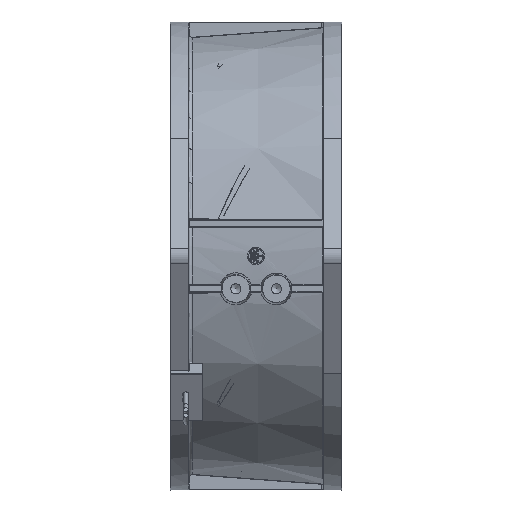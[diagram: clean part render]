
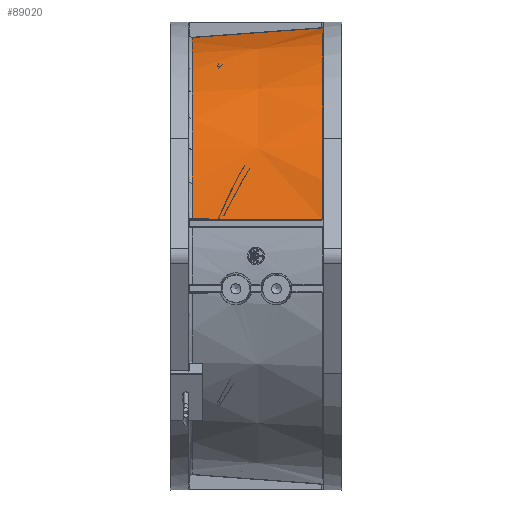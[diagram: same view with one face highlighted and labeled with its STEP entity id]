
A CAD part, left-side view. The second image highlights one B-rep face of the part: STEP entity #89020.
In plain terms, the highlighted conical face has half-angle 4.2 degrees and reference radius 70 mm.
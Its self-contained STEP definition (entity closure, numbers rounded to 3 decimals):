
#167=CONICAL_SURFACE('',#95694,70.,0.073);
#3942=B_SPLINE_CURVE_WITH_KNOTS('',3,(#128143,#128144,#128145,#128146),
 .UNSPECIFIED.,.F.,.F.,(4,4),(-4.155,0.),
 .UNSPECIFIED.);
#3944=B_SPLINE_CURVE_WITH_KNOTS('',3,(#128179,#128180,#128181,#128182,#128183),
 .UNSPECIFIED.,.F.,.F.,(4,1,4),(-0.063,-0.032,
0.),.UNSPECIFIED.);
#3946=B_SPLINE_CURVE_WITH_KNOTS('',3,(#128223,#128224,#128225,#128226,#128227),
 .UNSPECIFIED.,.F.,.F.,(4,1,4),(-0.063,-0.031,
0.),.UNSPECIFIED.);
#3948=B_SPLINE_CURVE_WITH_KNOTS('',3,(#128256,#128257,#128258,#128259),
 .UNSPECIFIED.,.F.,.F.,(4,4),(-4.155,0.),
 .UNSPECIFIED.);
#11965=FACE_OUTER_BOUND('',#17556,.T.);
#17556=EDGE_LOOP('',(#64701,#64702,#64703,#64704,#64705,#64706));
#36188=CIRCLE('',#95505,73.151);
#36313=CIRCLE('',#95695,70.079);
#38873=VERTEX_POINT('',#128113);
#38875=VERTEX_POINT('',#128141);
#38877=VERTEX_POINT('',#128177);
#38879=VERTEX_POINT('',#128191);
#38881=VERTEX_POINT('',#128221);
#38883=VERTEX_POINT('',#128254);
#48401=EDGE_CURVE('',#38875,#38873,#3942,.T.);
#48404=EDGE_CURVE('',#38877,#38875,#3944,.T.);
#48407=EDGE_CURVE('',#38879,#38877,#36188,.T.);
#48410=EDGE_CURVE('',#38881,#38879,#3946,.T.);
#48413=EDGE_CURVE('',#38883,#38881,#3948,.T.);
#48706=EDGE_CURVE('',#38873,#38883,#36313,.T.);
#64701=ORIENTED_EDGE('',*,*,#48413,.F.);
#64702=ORIENTED_EDGE('',*,*,#48706,.F.);
#64703=ORIENTED_EDGE('',*,*,#48401,.F.);
#64704=ORIENTED_EDGE('',*,*,#48404,.F.);
#64705=ORIENTED_EDGE('',*,*,#48407,.F.);
#64706=ORIENTED_EDGE('',*,*,#48410,.F.);
#89020=ADVANCED_FACE('',(#11965),#167,.T.);
#95505=AXIS2_PLACEMENT_3D('',#128193,#103608,#103609);
#95694=AXIS2_PLACEMENT_3D('',#131165,#104011,#104012);
#95695=AXIS2_PLACEMENT_3D('',#131166,#104013,#104014);
#103608=DIRECTION('center_axis',(0.,-1.,0.));
#103609=DIRECTION('ref_axis',(-0.664,0.,
0.748));
#104011=DIRECTION('center_axis',(0.,-1.,0.));
#104012=DIRECTION('ref_axis',(-1.,0.,0.));
#104013=DIRECTION('center_axis',(0.,1.,0.));
#104014=DIRECTION('ref_axis',(-0.661,0.,0.75));
#128113=CARTESIAN_POINT('',(-69.066,47.927,11.869));
#128141=CARTESIAN_POINT('',(-72.165,6.493,11.787));
#128143=CARTESIAN_POINT('Ctrl Pts',(-72.165,6.493,
11.787));
#128144=CARTESIAN_POINT('Ctrl Pts',(-71.133,20.304,
11.814));
#128145=CARTESIAN_POINT('Ctrl Pts',(-70.1,34.115,
11.842));
#128146=CARTESIAN_POINT('Ctrl Pts',(-69.066,47.927,
11.869));
#128177=CARTESIAN_POINT('',(-72.129,6.093,12.187));
#128179=CARTESIAN_POINT('Ctrl Pts',(-72.129,6.093,
12.187));
#128180=CARTESIAN_POINT('Ctrl Pts',(-72.146,6.093,12.084));
#128181=CARTESIAN_POINT('Ctrl Pts',(-72.174,6.177,
11.875));
#128182=CARTESIAN_POINT('Ctrl Pts',(-72.173,6.388,
11.787));
#128183=CARTESIAN_POINT('Ctrl Pts',(-72.165,6.493,
11.787));
#128191=CARTESIAN_POINT('',(-3.495,6.093,73.067));
#128193=CARTESIAN_POINT('Origin',(0.,6.093,
0.));
#128221=CARTESIAN_POINT('',(-3.096,6.493,73.056));
#128223=CARTESIAN_POINT('Ctrl Pts',(-3.096,6.493,
73.056));
#128224=CARTESIAN_POINT('Ctrl Pts',(-3.096,6.388,73.064));
#128225=CARTESIAN_POINT('Ctrl Pts',(-3.182,6.18,
73.075));
#128226=CARTESIAN_POINT('Ctrl Pts',(-3.391,6.093,
73.072));
#128227=CARTESIAN_POINT('Ctrl Pts',(-3.495,6.093,
73.067));
#128254=CARTESIAN_POINT('',(-3.096,47.927,70.01));
#128256=CARTESIAN_POINT('Ctrl Pts',(-3.096,47.927,70.01));
#128257=CARTESIAN_POINT('Ctrl Pts',(-3.096,34.115,
71.026));
#128258=CARTESIAN_POINT('Ctrl Pts',(-3.096,20.304,
72.041));
#128259=CARTESIAN_POINT('Ctrl Pts',(-3.096,6.493,73.056));
#131165=CARTESIAN_POINT('Origin',(0.,49.,0.));
#131166=CARTESIAN_POINT('Origin',(0.,47.927,
0.));
